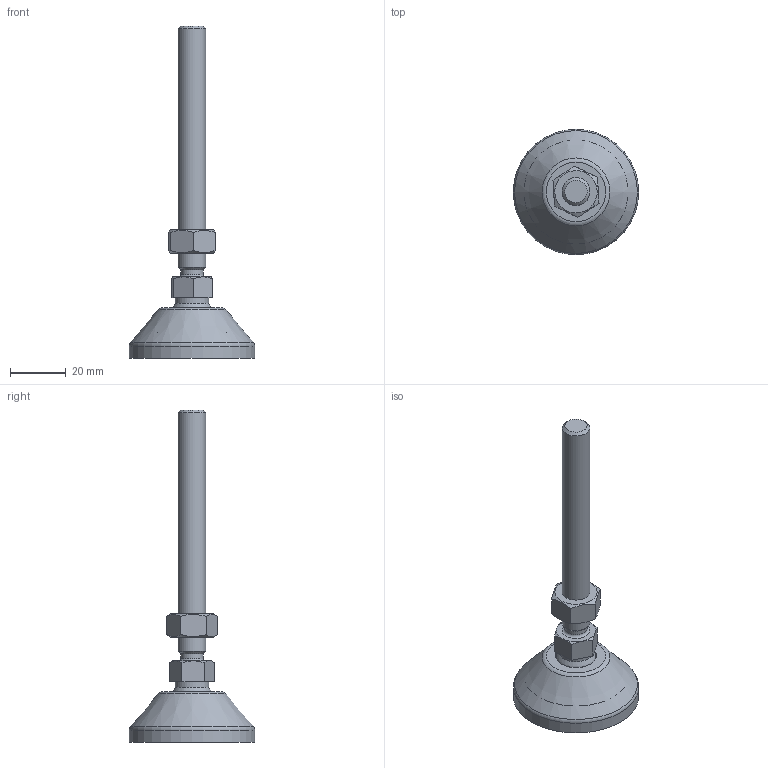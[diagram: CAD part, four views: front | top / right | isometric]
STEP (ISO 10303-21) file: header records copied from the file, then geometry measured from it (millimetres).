
FILE_DESCRIPTION(('STEP AP203'), '1');
FILE_NAME('栖闉罻', '', ('UNSPECIFIED'), ('UNSPECIFIED'), 'C3D Converter', 'C3D Toolkit', '');
FILE_SCHEMA(('CONFIG_CONTROL_DESIGN'));
Length unit declared in the file: millimetre
Products named in the file (4): A00015.1045; A00020.110090
Assembly tree (3 placements, depth 3):
  (unnamed)
    A00015.1045
    A00020.110090
      (unnamed)
Bounding box: 45 x 45 x 119.1 mm (x, y, z)
Volume: 23443.5 mm3; surface area: 11617.4 mm2
Topology: 3 solids, 3 shells, 134 faces, 367 edges, 243 vertices
Faces by surface type: plane 78, cylinder 26, cone 15, torus 13, sphere 2
Full cylindrical faces by diameter (mm): 8 x1, 8.376 x1, 10 x1, 12 x1, 14.3 x1, 15 x2, 15.5 x1, 37.3 x1, 45 x1
Entity records: 7321 total; most frequent: CARTESIAN_POINT 2732, DIRECTION 694, ORIENTED_EDGE 680, EDGE_CURVE 340, AXIS2_PLACEMENT_3D 274, VERTEX_POINT 242, EDGE_LOOP 166, LINE 146
